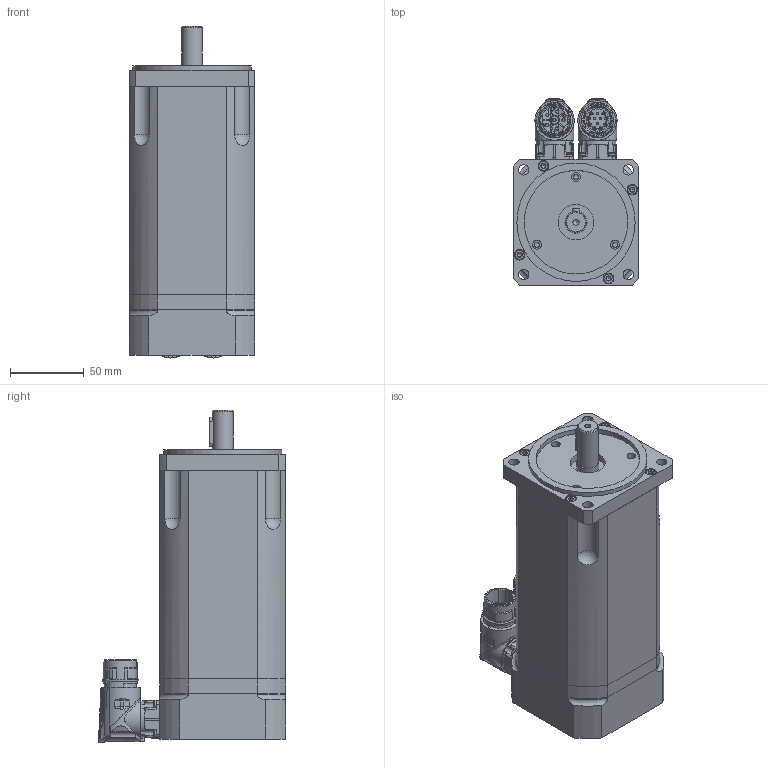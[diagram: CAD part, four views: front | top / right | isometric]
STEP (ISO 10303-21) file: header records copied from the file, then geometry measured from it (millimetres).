
FILE_DESCRIPTION(/* description */ (''),/* implementation_level */ '2;1');
FILE_NAME(/* name */ 'C:\Users\Public\Documents\Autodesk\Inventor LT 2014\Workspace\Motori Sito WEB\TG_3\STEP_DSM5_3x\DSM5_32_x197.stp',/* time_stamp */ '2021-03-31T14:10:58+02:00',/* author */ ('marcor'),/* organization */ (''),/* preprocessor_version */ 'ST-DEVELOPER v15.2',/* originating_system */ 'Autodesk Inventor LT ',/* authorisation */ '');
FILE_SCHEMA (('AUTOMOTIVE_DESIGN { 1 0 10303 214 3 1 1 }'));
Products named in the file (1): DSM5_32_x197
Bounding box: 85 x 126.5 x 224.41 mm (x, y, z)
Volume: 1346123 mm3; surface area: 144969.2 mm2
Topology: 16 solids, 26 shells, 1433 faces, 3712 edges, 2469 vertices
Faces by surface type: plane 525, cylinder 441, cone 247, bspline 113, torus 75, sphere 32
Full cylindrical faces by diameter (mm): 1.2 x12, 2.224 x8, 2.233 x6, 2.5 x8, 2.88 x8, 3.242 x12, 3.26 x8, 3.5 x3, 4 x12, 4.134 x1, 4.5 x14, 4.8 x8, 5.5 x3, 5.9 x2, 6 x3, 7 x16, 7.2 x8, 7.5 x4, 13.8 x1, 14 x1, 14.98 x1, 15.2 x1, 17.4 x3, 18 x1, 19.8 x1, 21.15 x4, 21.6 x1, 21.653 x2, 24 x1, 24.3 x2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
Entity records: 50760 total; most frequent: CARTESIAN_POINT 17585, ORIENTED_EDGE 6546, DIRECTION 6113, EDGE_CURVE 3273, AXIS2_PLACEMENT_3D 2513, VERTEX_POINT 2359, EDGE_LOOP 1964, ADVANCED_FACE 1433
